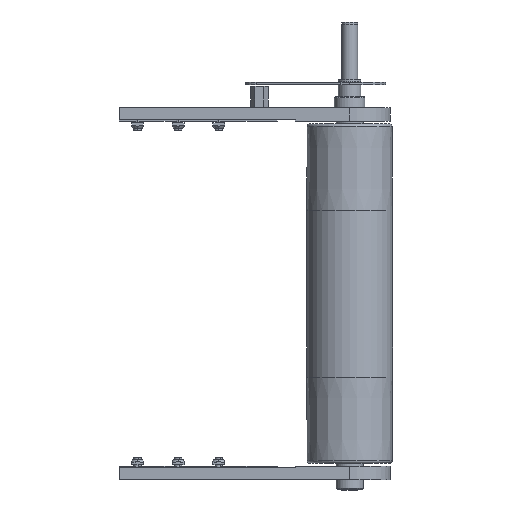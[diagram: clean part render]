
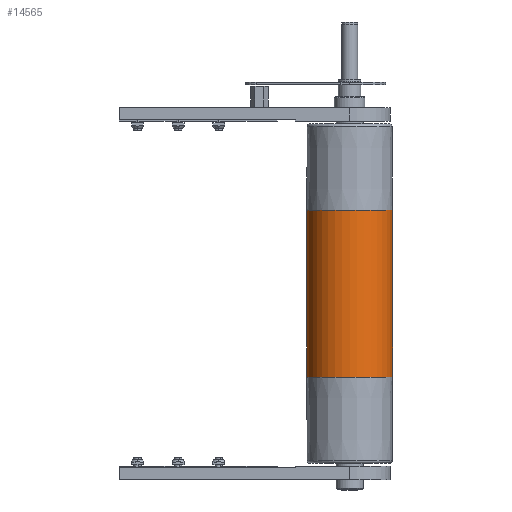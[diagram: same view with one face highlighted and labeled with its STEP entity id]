
A CAD part, front view. The second image highlights one B-rep face of the part: STEP entity #14565.
In plain terms, the highlighted cylindrical face has radius 47.5 mm (diameter 95 mm), a partial arc.
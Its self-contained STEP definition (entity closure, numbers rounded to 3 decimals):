
#380 = FACE_OUTER_BOUND ( 'NONE', #13084, .T. ) ;
#396 = VERTEX_POINT ( 'NONE', #21878 ) ;
#1511 = DIRECTION ( 'NONE',  ( -1., 0., 0. ) ) ;
#1651 = CARTESIAN_POINT ( 'NONE',  ( 185., 0., -47.5 ) ) ;
#2121 = EDGE_CURVE ( 'NONE', #2963, #8697, #14982, .T. ) ;
#2619 = DIRECTION ( 'NONE',  ( 0., 0., 1. ) ) ;
#2963 = VERTEX_POINT ( 'NONE', #6818 ) ;
#3192 = EDGE_CURVE ( 'NONE', #396, #2963, #4614, .T. ) ;
#3787 = EDGE_CURVE ( 'NONE', #396, #18871, #8586, .T. ) ;
#3890 = ORIENTED_EDGE ( 'NONE', *, *, #3192, .F. ) ;
#4506 = DIRECTION ( 'NONE',  ( 0., 0., -1. ) ) ;
#4614 = CIRCLE ( 'NONE', #11352, 47.5 ) ;
#5469 = CIRCLE ( 'NONE', #11717, 47.5 ) ;
#6035 = DIRECTION ( 'NONE',  ( -1., 0., 0. ) ) ;
#6424 = DIRECTION ( 'NONE',  ( 1., 0., 0. ) ) ;
#6818 = CARTESIAN_POINT ( 'NONE',  ( 92.5, 0., -47.5 ) ) ;
#7367 = CARTESIAN_POINT ( 'NONE',  ( -92.5, 0., -47.5 ) ) ;
#7514 = VECTOR ( 'NONE', #1511, 1000. ) ;
#8336 = CYLINDRICAL_SURFACE ( 'NONE', #16376, 47.5 ) ;
#8343 = EDGE_CURVE ( 'NONE', #18871, #8697, #5469, .T. ) ;
#8586 = LINE ( 'NONE', #15761, #7514 ) ;
#8697 = VERTEX_POINT ( 'NONE', #7367 ) ;
#9065 = ORIENTED_EDGE ( 'NONE', *, *, #8343, .T. ) ;
#11352 = AXIS2_PLACEMENT_3D ( 'NONE', #15902, #16396, #4506 ) ;
#11717 = AXIS2_PLACEMENT_3D ( 'NONE', #16610, #6424, #18312 ) ;
#13025 = CARTESIAN_POINT ( 'NONE',  ( -92.5, 0., 47.5 ) ) ;
#13084 = EDGE_LOOP ( 'NONE', ( #21848, #3890, #14410, #9065 ) ) ;
#14410 = ORIENTED_EDGE ( 'NONE', *, *, #3787, .T. ) ;
#14525 = CARTESIAN_POINT ( 'NONE',  ( 185., 0., 0. ) ) ;
#14565 = ADVANCED_FACE ( 'NONE', ( #380 ), #8336, .T. ) ;
#14982 = LINE ( 'NONE', #1651, #18939 ) ;
#15761 = CARTESIAN_POINT ( 'NONE',  ( 185., 0., 47.5 ) ) ;
#15902 = CARTESIAN_POINT ( 'NONE',  ( 92.5, 0., 0. ) ) ;
#16376 = AXIS2_PLACEMENT_3D ( 'NONE', #14525, #6035, #2619 ) ;
#16396 = DIRECTION ( 'NONE',  ( 1., 0., 0. ) ) ;
#16610 = CARTESIAN_POINT ( 'NONE',  ( -92.5, 0., 0. ) ) ;
#18312 = DIRECTION ( 'NONE',  ( 0., 0., -1. ) ) ;
#18871 = VERTEX_POINT ( 'NONE', #13025 ) ;
#18939 = VECTOR ( 'NONE', #22046, 1000. ) ;
#21848 = ORIENTED_EDGE ( 'NONE', *, *, #2121, .F. ) ;
#21878 = CARTESIAN_POINT ( 'NONE',  ( 92.5, 0., 47.5 ) ) ;
#22046 = DIRECTION ( 'NONE',  ( -1., 0., 0. ) ) ;
